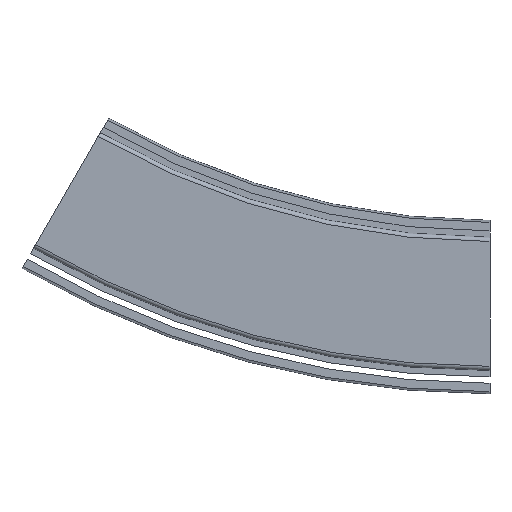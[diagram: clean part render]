
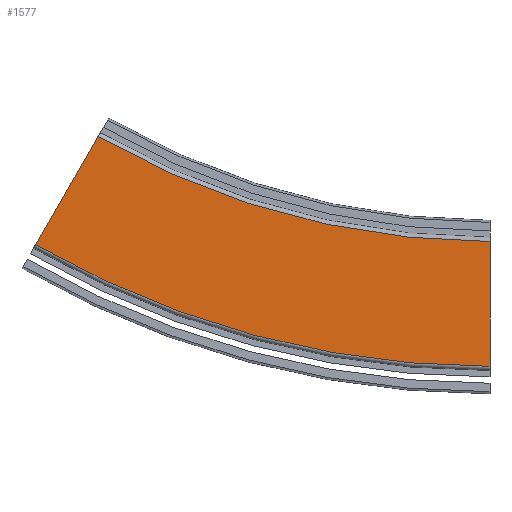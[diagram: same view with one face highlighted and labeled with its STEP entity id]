
A CAD part, left-side view. The second image highlights one B-rep face of the part: STEP entity #1577.
In plain terms, the highlighted planar face has unit normal (-1, 0, 0).
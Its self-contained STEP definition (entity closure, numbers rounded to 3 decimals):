
#126=PLANE('',#1712);
#200=FACE_OUTER_BOUND('',#292,.T.);
#292=EDGE_LOOP('',(#1300,#1301,#1302,#1303));
#360=CIRCLE('',#1711,370.5);
#361=CIRCLE('',#1713,429.5);
#464=LINE('',#7158,#590);
#465=LINE('',#7160,#591);
#590=VECTOR('',#2010,10.);
#591=VECTOR('',#2011,10.);
#750=VERTEX_POINT('',#7151);
#751=VERTEX_POINT('',#7153);
#752=VERTEX_POINT('',#7157);
#753=VERTEX_POINT('',#7159);
#950=EDGE_CURVE('',#750,#751,#360,.T.);
#951=EDGE_CURVE('',#752,#750,#464,.T.);
#952=EDGE_CURVE('',#753,#751,#465,.T.);
#953=EDGE_CURVE('',#752,#753,#361,.T.);
#1300=ORIENTED_EDGE('',*,*,#951,.T.);
#1301=ORIENTED_EDGE('',*,*,#950,.T.);
#1302=ORIENTED_EDGE('',*,*,#952,.F.);
#1303=ORIENTED_EDGE('',*,*,#953,.F.);
#1577=ADVANCED_FACE('',(#200),#126,.T.);
#1711=AXIS2_PLACEMENT_3D('',#7155,#2006,#2007);
#1712=AXIS2_PLACEMENT_3D('',#7156,#2008,#2009);
#1713=AXIS2_PLACEMENT_3D('',#7161,#2012,#2013);
#2006=DIRECTION('center_axis',(1.,0.,0.));
#2007=DIRECTION('ref_axis',(0.,0.,
-1.));
#2008=DIRECTION('center_axis',(-1.,0.,0.));
#2009=DIRECTION('ref_axis',(0.,0.,1.));
#2010=DIRECTION('',(0.,0.,1.));
#2011=DIRECTION('',(0.,-0.5,0.866));
#2012=DIRECTION('center_axis',(1.,0.,0.));
#2013=DIRECTION('ref_axis',(0.,0.,
-1.));
#7151=CARTESIAN_POINT('',(-43.,0.,29.5));
#7153=CARTESIAN_POINT('',(-43.,185.25,79.138));
#7155=CARTESIAN_POINT('Origin',(-43.,0.,400.));
#7156=CARTESIAN_POINT('Origin',(-43.,0.,-29.5));
#7157=CARTESIAN_POINT('',(-43.,0.,-29.5));
#7158=CARTESIAN_POINT('',(-43.,0.,-29.5));
#7159=CARTESIAN_POINT('',(-43.,214.75,28.042));
#7160=CARTESIAN_POINT('',(-43.,214.75,28.042));
#7161=CARTESIAN_POINT('Origin',(-43.,0.,
400.));
